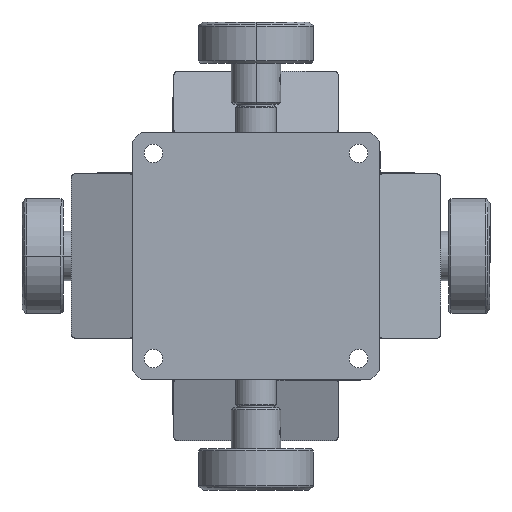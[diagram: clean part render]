
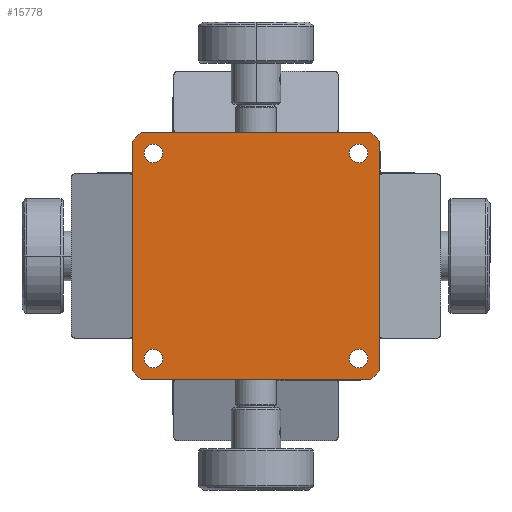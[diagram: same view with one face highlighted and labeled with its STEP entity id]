
A CAD part, front view. The second image highlights one B-rep face of the part: STEP entity #15778.
In plain terms, the highlighted planar face has unit normal (0, -1, 0).
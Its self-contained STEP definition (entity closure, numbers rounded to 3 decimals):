
#183 = ORIENTED_EDGE ( 'NONE', *, *, #17983, .T. ) ;
#916 = VERTEX_POINT ( 'NONE', #61952 ) ;
#2600 = CIRCLE ( 'NONE', #71087, 2.25 ) ;
#4345 = CARTESIAN_POINT ( 'NONE',  ( 30., 0., -30. ) ) ;
#4896 = DIRECTION ( 'NONE',  ( 0., 1., 0. ) ) ;
#6371 = AXIS2_PLACEMENT_3D ( 'NONE', #56610, #9305, #64566 ) ;
#6657 = DIRECTION ( 'NONE',  ( 0., 0., -1. ) ) ;
#7107 = ORIENTED_EDGE ( 'NONE', *, *, #10991, .T. ) ;
#7513 = ORIENTED_EDGE ( 'NONE', *, *, #7982, .F. ) ;
#7639 = EDGE_LOOP ( 'NONE', ( #80201, #11362 ) ) ;
#7757 = VERTEX_POINT ( 'NONE', #62442 ) ;
#7982 = EDGE_CURVE ( 'NONE', #41695, #99984, #52504, .T. ) ;
#8157 = DIRECTION ( 'NONE',  ( 0., 1., 0. ) ) ;
#9305 = DIRECTION ( 'NONE',  ( 0., 1., 0. ) ) ;
#10454 = CARTESIAN_POINT ( 'NONE',  ( 28., 0., 30. ) ) ;
#10942 = EDGE_LOOP ( 'NONE', ( #35031, #40368 ) ) ;
#10991 = EDGE_CURVE ( 'NONE', #72006, #15663, #37391, .T. ) ;
#11362 = ORIENTED_EDGE ( 'NONE', *, *, #79765, .T. ) ;
#12459 = CARTESIAN_POINT ( 'NONE',  ( -25., 0., 25. ) ) ;
#12961 = CARTESIAN_POINT ( 'NONE',  ( -22.75, 0., -25. ) ) ;
#13181 = PLANE ( 'NONE',  #22657 ) ;
#14979 = CARTESIAN_POINT ( 'NONE',  ( -25., 0., 25. ) ) ;
#15576 = EDGE_CURVE ( 'NONE', #33315, #83107, #99274, .T. ) ;
#15663 = VERTEX_POINT ( 'NONE', #10454 ) ;
#15778 = ADVANCED_FACE ( 'NONE', ( #18858, #84404, #39879, #100450, #42343 ), #13181, .T. ) ;
#16891 = DIRECTION ( 'NONE',  ( -0.707, 0., 0.707 ) ) ;
#17983 = EDGE_CURVE ( 'NONE', #34514, #916, #2600, .T. ) ;
#18858 = FACE_BOUND ( 'NONE', #47625, .T. ) ;
#19131 = AXIS2_PLACEMENT_3D ( 'NONE', #21818, #77063, #29750 ) ;
#19144 = CARTESIAN_POINT ( 'NONE',  ( -30., 0., -28. ) ) ;
#20168 = VECTOR ( 'NONE', #79670, 1000. ) ;
#20439 = DIRECTION ( 'NONE',  ( 1., 0., 0. ) ) ;
#21142 = DIRECTION ( 'NONE',  ( -1., 0., 0. ) ) ;
#21188 = EDGE_CURVE ( 'NONE', #79345, #74561, #83744, .T. ) ;
#21818 = CARTESIAN_POINT ( 'NONE',  ( 25., 0., -25. ) ) ;
#22657 = AXIS2_PLACEMENT_3D ( 'NONE', #52528, #68463, #21142 ) ;
#22943 = DIRECTION ( 'NONE',  ( 1., 0., 0. ) ) ;
#26523 = VERTEX_POINT ( 'NONE', #36259 ) ;
#29750 = DIRECTION ( 'NONE',  ( 1., 0., 0. ) ) ;
#30985 = CARTESIAN_POINT ( 'NONE',  ( 27.25, 0., 25. ) ) ;
#31050 = CARTESIAN_POINT ( 'NONE',  ( -29., 0., 29. ) ) ;
#32834 = EDGE_CURVE ( 'NONE', #41695, #87105, #96314, .T. ) ;
#33315 = VERTEX_POINT ( 'NONE', #19144 ) ;
#34514 = VERTEX_POINT ( 'NONE', #30985 ) ;
#34681 = VERTEX_POINT ( 'NONE', #56819 ) ;
#34923 = CARTESIAN_POINT ( 'NONE',  ( -27.25, 0., -25. ) ) ;
#35031 = ORIENTED_EDGE ( 'NONE', *, *, #21188, .T. ) ;
#35917 = VECTOR ( 'NONE', #91788, 1000. ) ;
#36259 = CARTESIAN_POINT ( 'NONE',  ( -27.25, 0., 25. ) ) ;
#36748 = VECTOR ( 'NONE', #80105, 1000. ) ;
#37391 = LINE ( 'NONE', #64182, #97970 ) ;
#39246 = CARTESIAN_POINT ( 'NONE',  ( -30., 0., 30. ) ) ;
#39879 = FACE_BOUND ( 'NONE', #10942, .T. ) ;
#40368 = ORIENTED_EDGE ( 'NONE', *, *, #52148, .T. ) ;
#40553 = ORIENTED_EDGE ( 'NONE', *, *, #67916, .T. ) ;
#41695 = VERTEX_POINT ( 'NONE', #92351 ) ;
#42343 = FACE_OUTER_BOUND ( 'NONE', #93172, .T. ) ;
#42607 = CARTESIAN_POINT ( 'NONE',  ( 25., 0., 25. ) ) ;
#42987 = ORIENTED_EDGE ( 'NONE', *, *, #49241, .F. ) ;
#44403 = CARTESIAN_POINT ( 'NONE',  ( -59., 0., 1. ) ) ;
#45614 = EDGE_CURVE ( 'NONE', #33315, #99984, #56910, .T. ) ;
#46454 = CIRCLE ( 'NONE', #93561, 2.25 ) ;
#46856 = DIRECTION ( 'NONE',  ( 0., 1., 0. ) ) ;
#47252 = AXIS2_PLACEMENT_3D ( 'NONE', #12459, #67745, #20439 ) ;
#47625 = EDGE_LOOP ( 'NONE', ( #183, #40553 ) ) ;
#48297 = CARTESIAN_POINT ( 'NONE',  ( 30., 0., 30. ) ) ;
#49241 = EDGE_CURVE ( 'NONE', #100897, #15663, #78778, .T. ) ;
#50484 = EDGE_LOOP ( 'NONE', ( #66088, #60538 ) ) ;
#50517 = DIRECTION ( 'NONE',  ( 1., 0., 0. ) ) ;
#51507 = ORIENTED_EDGE ( 'NONE', *, *, #57552, .F. ) ;
#51650 = DIRECTION ( 'NONE',  ( -1., 0., 0. ) ) ;
#52148 = EDGE_CURVE ( 'NONE', #74561, #79345, #46454, .T. ) ;
#52201 = CARTESIAN_POINT ( 'NONE',  ( -25., 0., -25. ) ) ;
#52504 = LINE ( 'NONE', #4345, #71096 ) ;
#52528 = CARTESIAN_POINT ( 'NONE',  ( -30., 0., 30. ) ) ;
#53480 = ORIENTED_EDGE ( 'NONE', *, *, #15576, .F. ) ;
#55297 = AXIS2_PLACEMENT_3D ( 'NONE', #55453, #8157, #63412 ) ;
#55453 = CARTESIAN_POINT ( 'NONE',  ( -25., 0., -25. ) ) ;
#56536 = EDGE_CURVE ( 'NONE', #71617, #34681, #79238, .T. ) ;
#56610 = CARTESIAN_POINT ( 'NONE',  ( 25., 0., -25. ) ) ;
#56819 = CARTESIAN_POINT ( 'NONE',  ( 22.75, 0., -25. ) ) ;
#56910 = LINE ( 'NONE', #44403, #35917 ) ;
#57552 = EDGE_CURVE ( 'NONE', #72006, #87105, #92846, .T. ) ;
#57784 = CARTESIAN_POINT ( 'NONE',  ( -30., 0., 28. ) ) ;
#58641 = EDGE_CURVE ( 'NONE', #34681, #71617, #91448, .T. ) ;
#59764 = DIRECTION ( 'NONE',  ( 0.707, 0., 0.707 ) ) ;
#59906 = CARTESIAN_POINT ( 'NONE',  ( -28., 0., -30. ) ) ;
#60166 = DIRECTION ( 'NONE',  ( 1., 0., 0. ) ) ;
#60538 = ORIENTED_EDGE ( 'NONE', *, *, #58641, .T. ) ;
#61138 = LINE ( 'NONE', #31050, #100706 ) ;
#61952 = CARTESIAN_POINT ( 'NONE',  ( 22.75, 0., 25. ) ) ;
#62442 = CARTESIAN_POINT ( 'NONE',  ( -22.75, 0., 25. ) ) ;
#63287 = CARTESIAN_POINT ( 'NONE',  ( 30., 0., 30. ) ) ;
#63412 = DIRECTION ( 'NONE',  ( 1., 0., 0. ) ) ;
#64182 = CARTESIAN_POINT ( 'NONE',  ( -1., 0., 59. ) ) ;
#64566 = DIRECTION ( 'NONE',  ( 1., 0., 0. ) ) ;
#66088 = ORIENTED_EDGE ( 'NONE', *, *, #56536, .T. ) ;
#67745 = DIRECTION ( 'NONE',  ( 0., 1., 0. ) ) ;
#67916 = EDGE_CURVE ( 'NONE', #916, #34514, #70270, .T. ) ;
#68463 = DIRECTION ( 'NONE',  ( 0., -1., 0. ) ) ;
#70270 = CIRCLE ( 'NONE', #71195, 2.25 ) ;
#70273 = DIRECTION ( 'NONE',  ( 0., 1., 0. ) ) ;
#71087 = AXIS2_PLACEMENT_3D ( 'NONE', #94229, #46856, #102167 ) ;
#71096 = VECTOR ( 'NONE', #51650, 1000. ) ;
#71195 = AXIS2_PLACEMENT_3D ( 'NONE', #42607, #97918, #50517 ) ;
#71617 = VERTEX_POINT ( 'NONE', #78037 ) ;
#72006 = VERTEX_POINT ( 'NONE', #83153 ) ;
#73907 = ORIENTED_EDGE ( 'NONE', *, *, #88126, .T. ) ;
#74237 = ORIENTED_EDGE ( 'NONE', *, *, #32834, .T. ) ;
#74283 = VECTOR ( 'NONE', #6657, 1000. ) ;
#74561 = VERTEX_POINT ( 'NONE', #34923 ) ;
#75274 = VECTOR ( 'NONE', #59764, 1000. ) ;
#76266 = AXIS2_PLACEMENT_3D ( 'NONE', #14979, #70273, #22943 ) ;
#77063 = DIRECTION ( 'NONE',  ( 0., 1., 0. ) ) ;
#78037 = CARTESIAN_POINT ( 'NONE',  ( 27.25, 0., -25. ) ) ;
#78778 = LINE ( 'NONE', #48297, #36748 ) ;
#79238 = CIRCLE ( 'NONE', #6371, 2.25 ) ;
#79345 = VERTEX_POINT ( 'NONE', #12961 ) ;
#79670 = DIRECTION ( 'NONE',  ( 0., 0., 1. ) ) ;
#79765 = EDGE_CURVE ( 'NONE', #26523, #7757, #101148, .T. ) ;
#80105 = DIRECTION ( 'NONE',  ( 1., 0., 0. ) ) ;
#80201 = ORIENTED_EDGE ( 'NONE', *, *, #93663, .T. ) ;
#83107 = VERTEX_POINT ( 'NONE', #57784 ) ;
#83153 = CARTESIAN_POINT ( 'NONE',  ( 30., 0., 28. ) ) ;
#83744 = CIRCLE ( 'NONE', #55297, 2.25 ) ;
#84404 = FACE_BOUND ( 'NONE', #7639, .T. ) ;
#85745 = CARTESIAN_POINT ( 'NONE',  ( -28., 0., 30. ) ) ;
#86240 = CARTESIAN_POINT ( 'NONE',  ( 30., 0., -28. ) ) ;
#87105 = VERTEX_POINT ( 'NONE', #86240 ) ;
#88126 = EDGE_CURVE ( 'NONE', #100897, #83107, #61138, .T. ) ;
#91448 = CIRCLE ( 'NONE', #19131, 2.25 ) ;
#91788 = DIRECTION ( 'NONE',  ( 0.707, 0., -0.707 ) ) ;
#92351 = CARTESIAN_POINT ( 'NONE',  ( 28., 0., -30. ) ) ;
#92846 = LINE ( 'NONE', #63287, #74283 ) ;
#93172 = EDGE_LOOP ( 'NONE', ( #42987, #73907, #53480, #97035, #7513, #74237, #51507, #7107 ) ) ;
#93561 = AXIS2_PLACEMENT_3D ( 'NONE', #52201, #4896, #60166 ) ;
#93663 = EDGE_CURVE ( 'NONE', #7757, #26523, #98665, .T. ) ;
#94229 = CARTESIAN_POINT ( 'NONE',  ( 25., 0., 25. ) ) ;
#96314 = LINE ( 'NONE', #99184, #75274 ) ;
#97035 = ORIENTED_EDGE ( 'NONE', *, *, #45614, .T. ) ;
#97918 = DIRECTION ( 'NONE',  ( 0., 1., 0. ) ) ;
#97970 = VECTOR ( 'NONE', #16891, 1000. ) ;
#98665 = CIRCLE ( 'NONE', #76266, 2.25 ) ;
#99184 = CARTESIAN_POINT ( 'NONE',  ( 29., 0., -29. ) ) ;
#99274 = LINE ( 'NONE', #39246, #20168 ) ;
#99984 = VERTEX_POINT ( 'NONE', #59906 ) ;
#100450 = FACE_BOUND ( 'NONE', #50484, .T. ) ;
#100706 = VECTOR ( 'NONE', #102540, 1000. ) ;
#100897 = VERTEX_POINT ( 'NONE', #85745 ) ;
#101148 = CIRCLE ( 'NONE', #47252, 2.25 ) ;
#102167 = DIRECTION ( 'NONE',  ( 1., 0., 0. ) ) ;
#102540 = DIRECTION ( 'NONE',  ( -0.707, 0., -0.707 ) ) ;
